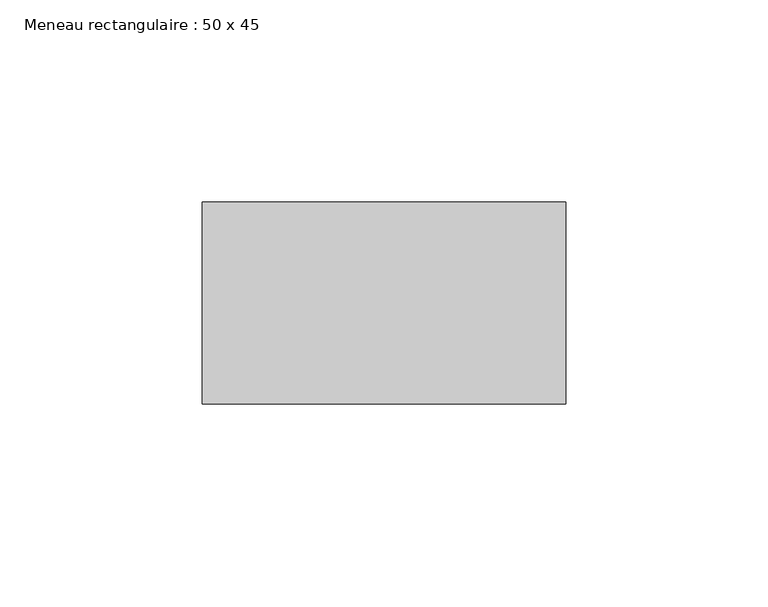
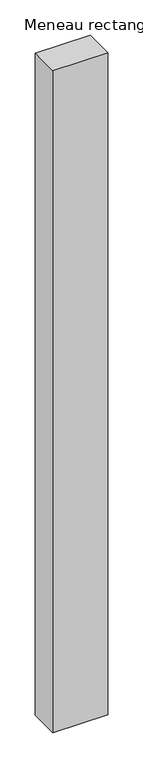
"""IFC4 building model written with IfcOpenShell, lengths in millimetres: member geometry, Meneau rectangulaire : 50 x 45."""

import ifcopenshell
import ifcopenshell.guid

model = None  # the IFC model being written
_history = None  # IfcOwnerHistory: only IFC2X3 demands one
_inside = {}  # id of a spatial element -> (the spatial element, [elements in it])
_under = {}  # id of a project, library or spatial element -> (it, [spatial elements below it])
_declared = {}  # id of a project -> (the project, [libraries it declares])
_typed = {}  # id of a type object -> (the type object, [elements of that type])
_made_of = {}  # id of a material, layer set ... -> (it, [elements and type objects made of it])


def new_model(schema):
    """Start an empty IFC model of exactly this schema.

    Asked for "IFC4X3", IfcOpenShell would pick the latest addendum, in which some entities
    have other attributes; the version numbers below select the first issue.
    IFC2X3 requires an IfcOwnerHistory on every rooted entity: one is made here for all.
    """
    global model, _history
    if schema == "IFC4X3":
        model = ifcopenshell.file(schema_version=(4, 3, 0, 0))
    else:
        model = ifcopenshell.file(schema=schema)
    _inside.clear()
    _under.clear()
    _declared.clear()
    _typed.clear()
    _made_of.clear()
    _history = None
    if model.schema == "IFC2X3":
        org = make("IfcOrganization", Name="unknown")
        user = make(
            "IfcPersonAndOrganization",
            ThePerson=make("IfcPerson", FamilyName="unknown"),
            TheOrganization=org,
        )
        app = make(
            "IfcApplication",
            ApplicationDeveloper=org,
            Version="unknown",
            ApplicationFullName="unknown",
            ApplicationIdentifier="unknown",
        )
        _history = make(
            "IfcOwnerHistory",
            OwningUser=user,
            OwningApplication=app,
            ChangeAction="ADDED",
            CreationDate=0,
        )
    return model


def make(cls, **values):
    """One entity of the class cls with the attributes given. An attribute that is None is left unset."""
    return model.create_entity(
        cls, **{name: value for name, value in values.items() if value is not None}
    )


def rooted(cls, **values):
    """An entity with a GlobalId (a new one), such as an element, a storey or a relation."""
    return make(cls, GlobalId=ifcopenshell.guid.new(), OwnerHistory=_history, **values)


def si_unit(unit_type, name, prefix=None):
    """IfcSIUnit, for example si_unit("LENGTHUNIT", "METRE", prefix="MILLI")."""
    return make("IfcSIUnit", UnitType=unit_type, Prefix=prefix, Name=name)


def assignment(units):
    """IfcUnitAssignment: the units of a project."""
    return None if units is None else make("IfcUnitAssignment", Units=units)


def point(xyz):
    """IfcCartesianPoint."""
    return None if xyz is None else make("IfcCartesianPoint", Coordinates=xyz)


def direction(xyz):
    """IfcDirection."""
    return None if xyz is None else make("IfcDirection", DirectionRatios=xyz)


def frame(location, z_axis=None, x_axis=None):
    """IfcAxis2Placement3D, a coordinate frame: its origin and axes. An axis left out is left unset."""
    return make(
        "IfcAxis2Placement3D",
        Location=point(location),
        Axis=direction(z_axis),
        RefDirection=direction(x_axis),
    )


def origin():
    """The frame at (0, 0, 0) with its axes left unset."""
    return frame((0.0, 0.0, 0.0))


def place(relative_to, where):
    """IfcLocalPlacement: puts the frame where relative to a parent placement (None: the world)."""
    return make(
        "IfcLocalPlacement", PlacementRelTo=relative_to, RelativePlacement=where
    )


def context(
    kind, dimensions, precision=None, world=None, true_north=None, identifier=None
):
    """IfcGeometricRepresentationContext, for example the 3D "Model" context."""
    return make(
        "IfcGeometricRepresentationContext",
        ContextIdentifier=identifier,
        ContextType=kind,
        CoordinateSpaceDimension=dimensions,
        Precision=precision,
        WorldCoordinateSystem=world,
        TrueNorth=true_north,
    )


def project(units=None, contexts=None):
    """IfcProject with its units and contexts."""
    return rooted(
        "IfcProject",
        Name="project",
        RepresentationContexts=contexts,
        UnitsInContext=assignment(units),
    )


def spatial(cls, under=None, at=None, **own):
    """A site, building, storey or space (cls), placed at a placement, below another one or the project."""
    s = rooted(cls, ObjectPlacement=at, **own)
    if under is not None:
        _under.setdefault(under.id(), (under, []))[1].append(s)
    return s


def polyline(points):
    """IfcPolyline through the points."""
    return make("IfcPolyline", Points=[point(p) for p in points])


def outline(outer, holes=None, kind="AREA"):
    """IfcArbitraryClosedProfileDef: a profile drawn as a closed curve; with holes, ...WithVoids."""
    if holes is None:
        return make("IfcArbitraryClosedProfileDef", ProfileType=kind, OuterCurve=outer)
    return make(
        "IfcArbitraryProfileDefWithVoids",
        ProfileType=kind,
        OuterCurve=outer,
        InnerCurves=holes,
    )


def extrude(swept, where, along, depth):
    """IfcExtrudedAreaSolid: the profile swept, set in the frame where, extruded along a direction by depth."""
    return make(
        "IfcExtrudedAreaSolid",
        SweptArea=swept,
        Position=where,
        ExtrudedDirection=direction(along),
        Depth=depth,
    )


def shape(context_of_items, identifier, shape_type, items):
    """IfcShapeRepresentation: the items that make up one representation, for example the "Body"."""
    return make(
        "IfcShapeRepresentation",
        ContextOfItems=context_of_items,
        RepresentationIdentifier=identifier,
        RepresentationType=shape_type,
        Items=items,
    )


def source(mapping_origin, context_of_items, identifier, shape_type, items):
    """IfcRepresentationMap: a shape defined once, which mapped items show again and again."""
    return make(
        "IfcRepresentationMap",
        MappingOrigin=mapping_origin,
        MappedRepresentation=shape(context_of_items, identifier, shape_type, items),
    )


def transform(
    local_origin,
    x_axis=None,
    y_axis=None,
    z_axis=None,
    scale=None,
    scale2=None,
    scale3=None,
    uniform=True,
):
    """IfcCartesianTransformationOperator3D, or its non-uniform kind. x_axis, y_axis, z_axis: its Axis1, 2, 3."""
    if uniform:
        return make(
            "IfcCartesianTransformationOperator3D",
            Axis1=direction(x_axis),
            Axis2=direction(y_axis),
            LocalOrigin=point(local_origin),
            Scale=scale,
            Axis3=direction(z_axis),
        )
    return make(
        "IfcCartesianTransformationOperator3DnonUniform",
        Axis1=direction(x_axis),
        Axis2=direction(y_axis),
        LocalOrigin=point(local_origin),
        Scale=scale,
        Axis3=direction(z_axis),
        Scale2=scale2,
        Scale3=scale3,
    )


def mapped(mapping_source, mapping_target):
    """IfcMappedItem: shows the shape of a source again, moved by a transform."""
    return make(
        "IfcMappedItem", MappingSource=mapping_source, MappingTarget=mapping_target
    )


def made_of(thing, what):
    """Note that an element or type object is made of a material, layer set ...; save() writes the relation."""
    if what is not None:
        _made_of.setdefault(what.id(), (what, []))[1].append(thing)
    return thing


def element(
    cls,
    number,
    at=None,
    inside=None,
    cuts=None,
    type_object=None,
    material=None,
    context=None,
    identifier="Body",
    shape_type=None,
    held_by="IfcProductDefinitionShape",
    body=None,
    shapes=None,
    **own,
):
    """One element of the class cls, such as IfcWall. Its Tag is "e" and its number.

    at: its placement. inside: the storey or other place that contains it. cuts: it is an
    opening in that element (IfcRelVoidsElement). A single representation is given by context,
    identifier, shape_type and body (its items); several are given by shapes. held_by: the class
    of the entity that holds the representations. save() writes the other relations.
    """
    e = rooted(cls, Tag="e%d" % number, ObjectPlacement=at, **own)
    if body is not None:
        shapes = [shape(context, identifier, shape_type, body)]
    if shapes is not None:
        e.Representation = make(held_by, Representations=shapes)
    if inside is not None:
        _inside.setdefault(inside.id(), (inside, []))[1].append(e)
    if cuts is not None:
        rooted(
            "IfcRelVoidsElement", RelatingBuildingElement=cuts, RelatedOpeningElement=e
        )
    if type_object is not None:
        _typed.setdefault(type_object.id(), (type_object, []))[1].append(e)
    return made_of(e, material)


def aggregate(whole, parts):
    """IfcRelAggregates: a whole, such as a stair, and the parts it consists of."""
    return rooted("IfcRelAggregates", RelatingObject=whole, RelatedObjects=parts)


def save(model, path):
    """Write the relations noted so far, then the file.

    IfcRelAggregates (storeys below a building ...), IfcRelContainedInSpatialStructure (elements
    in a storey), IfcRelDefinesByType, IfcRelAssociatesMaterial and IfcRelDeclares: one each for
    every whole, place, type object, material and project.
    """
    for whole, parts in _under.values():
        aggregate(whole, parts)
    for where, things in _inside.values():
        rooted(
            "IfcRelContainedInSpatialStructure",
            RelatedElements=things,
            RelatingStructure=where,
        )
    for kind, things in _typed.values():
        rooted("IfcRelDefinesByType", RelatedObjects=things, RelatingType=kind)
    for what, things in _made_of.values():
        rooted("IfcRelAssociatesMaterial", RelatedObjects=things, RelatingMaterial=what)
    for by, libraries in _declared.values():
        rooted("IfcRelDeclares", RelatingContext=by, RelatedDefinitions=libraries)
    model.write(path)


def meneau_rectangulaire_50_x_45_ded98c19(model_context):
    return source(origin(), model_context, "Body", "SweptSolid", [
        extrude(outline(polyline([(0.0, 0.0), (0.0, -50.0), (-90.0, -50.0), (-90.0, 0.0), (0.0, 0.0)])), frame((0.0, 0.0, -1146.7402286), z_axis=(0.0, 0.0, 1.0), x_axis=(1.0, 0.0, 0.0)), (0.0, 0.0, 1.0), 1146.7402286),
    ])


if __name__ == "__main__":
    model = new_model("IFC4")
    model_context = context("Model", 3, world=origin())
    ifc_project = project(units=[si_unit("LENGTHUNIT", "METRE", prefix="MILLI")], contexts=[model_context])
    site = spatial("IfcSite", under=ifc_project)
    building = spatial("IfcBuilding", under=site)
    placement = place(None, origin())
    meneau_rectangulaire_50_x_45_shape = meneau_rectangulaire_50_x_45_ded98c19(model_context)
    element("IfcMember", 1, ObjectType="Meneau rectangulaire : 50 x 45", at=placement, inside=building, context=model_context, shape_type="MappedRepresentation", body=[
        mapped(meneau_rectangulaire_50_x_45_shape, transform((0.0, 0.0, 0.0), x_axis=(1.0, 0.0, 0.0), y_axis=(0.0, 1.0, 0.0), z_axis=(0.0, 0.0, 1.0))),
    ])
    save(model, "model.ifc")
